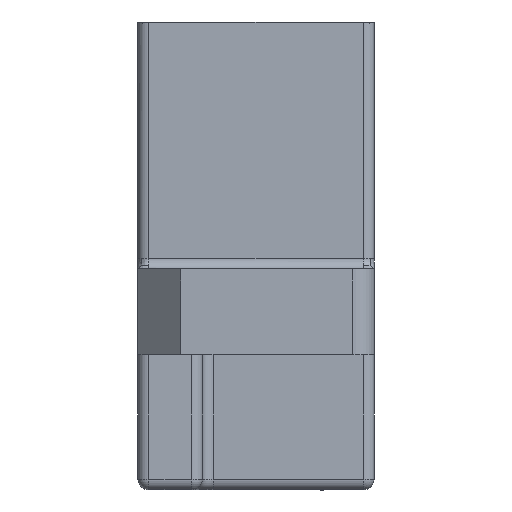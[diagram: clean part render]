
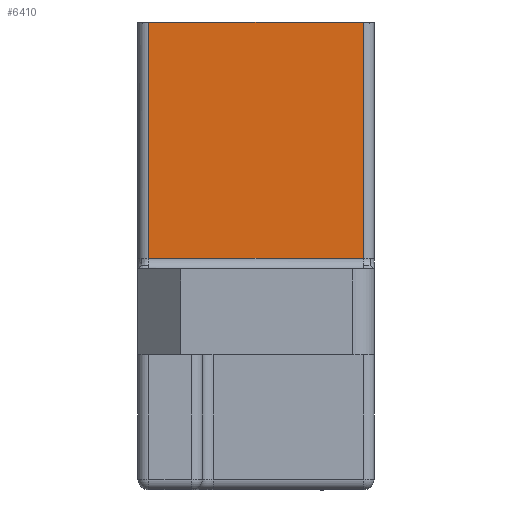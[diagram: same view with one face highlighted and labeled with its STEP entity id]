
A CAD part, left-side view. The second image highlights one B-rep face of the part: STEP entity #6410.
In plain terms, the highlighted planar face has unit normal (-1, 0, 0) as drawn and (1, 0, 0) by its records, which use the part's own axes.
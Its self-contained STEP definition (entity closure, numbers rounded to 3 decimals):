
#6020=CARTESIAN_POINT('',(-103.124,106.356,1.25));
#6030=DIRECTION('',(1.,0.,0.));
#6040=DIRECTION('',(0.,-1.,0.));
#6050=AXIS2_PLACEMENT_3D('',#6020,#6030,#6040);
#6060=PLANE('',#6050);
#6070=CARTESIAN_POINT('',(-103.124,0.,-13.75));
#6080=DIRECTION('',(0.,-1.,0.));
#6090=VECTOR('',#6080,1.);
#6100=LINE('',#6070,#6090);
#6110=CARTESIAN_POINT('',(-103.124,115.356,-13.75));
#6120=VERTEX_POINT('',#6110);
#6130=CARTESIAN_POINT('',(-103.124,105.356,-13.75));
#6140=VERTEX_POINT('',#6130);
#6150=EDGE_CURVE('',#6120,#6140,#6100,.T.);
#6160=ORIENTED_EDGE('',*,*,#6150,.F.);
#6170=CARTESIAN_POINT('',(-103.124,105.356,0.));
#6180=DIRECTION('',(0.,0.,1.));
#6190=VECTOR('',#6180,1.);
#6200=LINE('',#6170,#6190);
#6210=CARTESIAN_POINT('',(-103.124,105.356,-2.75));
#6220=VERTEX_POINT('',#6210);
#6230=EDGE_CURVE('',#6140,#6220,#6200,.T.);
#6240=ORIENTED_EDGE('',*,*,#6230,.F.);
#6250=CARTESIAN_POINT('',(-103.124,0.,-2.75));
#6260=DIRECTION('',(0.,1.,0.));
#6270=VECTOR('',#6260,1.);
#6280=LINE('',#6250,#6270);
#6290=CARTESIAN_POINT('',(-103.124,115.356,-2.75));
#6300=VERTEX_POINT('',#6290);
#6310=EDGE_CURVE('',#6220,#6300,#6280,.T.);
#6320=ORIENTED_EDGE('',*,*,#6310,.F.);
#6330=CARTESIAN_POINT('',(-103.124,115.356,0.));
#6340=DIRECTION('',(0.,0.,-1.));
#6350=VECTOR('',#6340,1.);
#6360=LINE('',#6330,#6350);
#6370=EDGE_CURVE('',#6300,#6120,#6360,.T.);
#6380=ORIENTED_EDGE('',*,*,#6370,.F.);
#6390=EDGE_LOOP('',(#6380,#6320,#6240,#6160));
#6400=FACE_OUTER_BOUND('',#6390,.T.);
#6410=ADVANCED_FACE('',(#6400),#6060,.T.);
